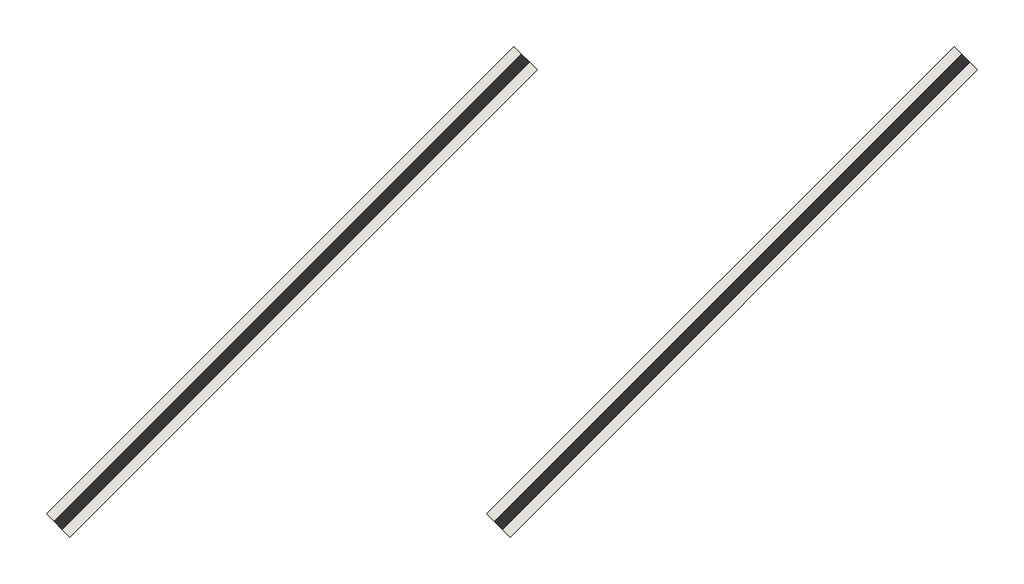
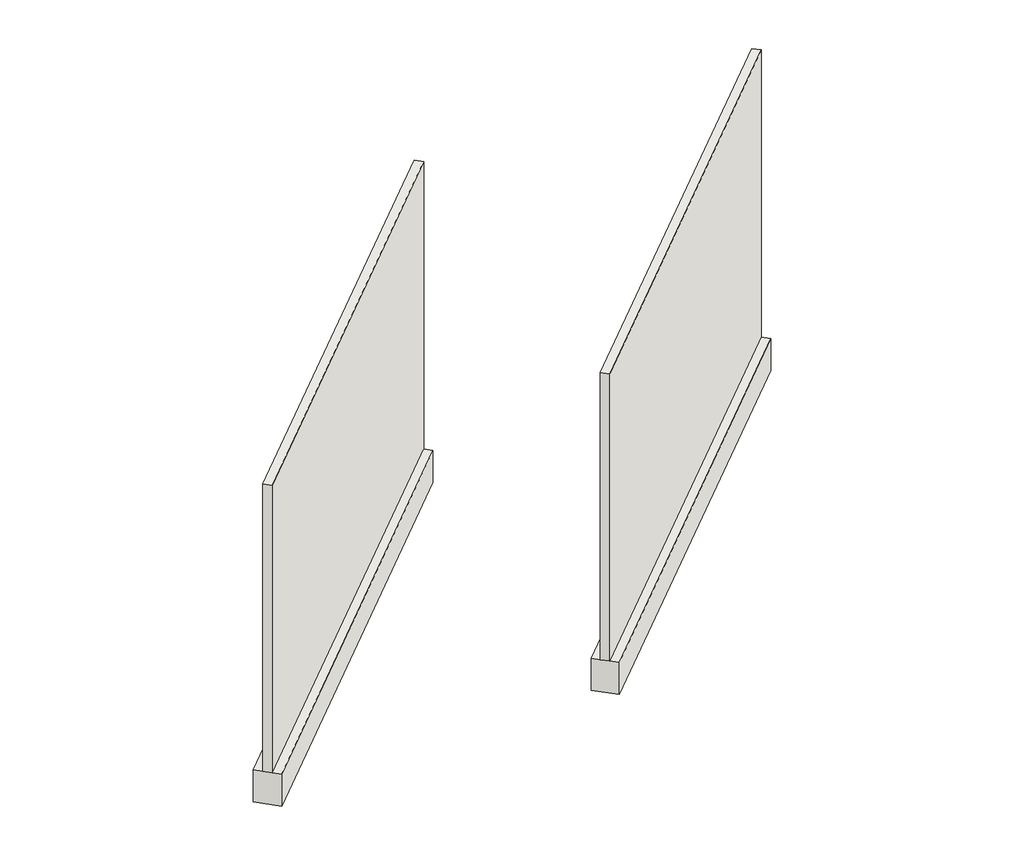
# One storey: 4 walls.
"""IFC4 building model written with IfcOpenShell, lengths in millimetres."""

from ifc_helpers import new_model, si_unit, frame, origin, origin_with_axes, place, context, project, spatial, polyline, outline, extrude, element, save

model = new_model("IFC4")

# Units and contexts
model_context = context("Model", 3, world=origin())
ifc_project = project(units=[si_unit("LENGTHUNIT", "METRE", prefix="MILLI")], contexts=[model_context])

# Site, building, storey
site = spatial("IfcSite", under=ifc_project)
building = spatial("IfcBuilding", under=site)
storey = spatial("IfcBuildingStorey", under=building, Name="River Rock Pioneer Stone", Elevation=0.0)

# Walls
placement = place(None, origin())
element("IfcWall", 1, ObjectType="Lakeshore_River Rock", at=placement, inside=storey, context=model_context, shape_type="SweptSolid", body=[
    extrude(outline(polyline([(-16771.4654192, 8506.1818358), (-20004.3576228, 5273.2896322), (-20058.2391595, 5327.1711689), (-16825.3469559, 8560.0633725), (-16771.4654192, 8506.1818358)])), frame((0.0, 0.0, 304.8), z_axis=(0.0, 0.0, 1.0), x_axis=(1.0, 0.0, 0.0)), (0.0, 0.0, 1.0), 2743.2),
])
element("IfcWall", 2, ObjectType="Autumn_River Rock", at=placement, inside=storey, context=model_context, shape_type="SweptSolid", body=[
    extrude(outline(polyline([(-19819.4654192, 8506.1818358), (-23052.3576228, 5273.2896322), (-23106.2391595, 5327.1711689), (-19873.3469559, 8560.0633725), (-19819.4654192, 8506.1818358)])), frame((0.0, 0.0, 304.8), z_axis=(0.0, 0.0, 1.0), x_axis=(1.0, 0.0, 0.0)), (0.0, 0.0, 1.0), 2743.2),
])
element("IfcWall", 3, ObjectType="Generic 9\"", at=placement, inside=storey, context=model_context, shape_type="SweptSolid", body=[
    extrude(outline(polyline([(-19765.5838825, 8452.3002991), (-22998.4760861, 5219.4080955), (-23160.1206962, 5381.0527057), (-19927.2284927, 8613.9449092), (-19765.5838825, 8452.3002991)])), origin_with_axes(), (0.0, 0.0, 1.0), 304.8),
])
element("IfcWall", 4, ObjectType="Generic 9\"", at=placement, inside=storey, context=model_context, shape_type="SweptSolid", body=[
    extrude(outline(polyline([(-16717.5838825, 8452.3002991), (-19950.4760861, 5219.4080955), (-20112.1206962, 5381.0527057), (-16879.2284927, 8613.9449092), (-16717.5838825, 8452.3002991)])), origin_with_axes(), (0.0, 0.0, 1.0), 304.8),
])

save(model, "model.ifc")
